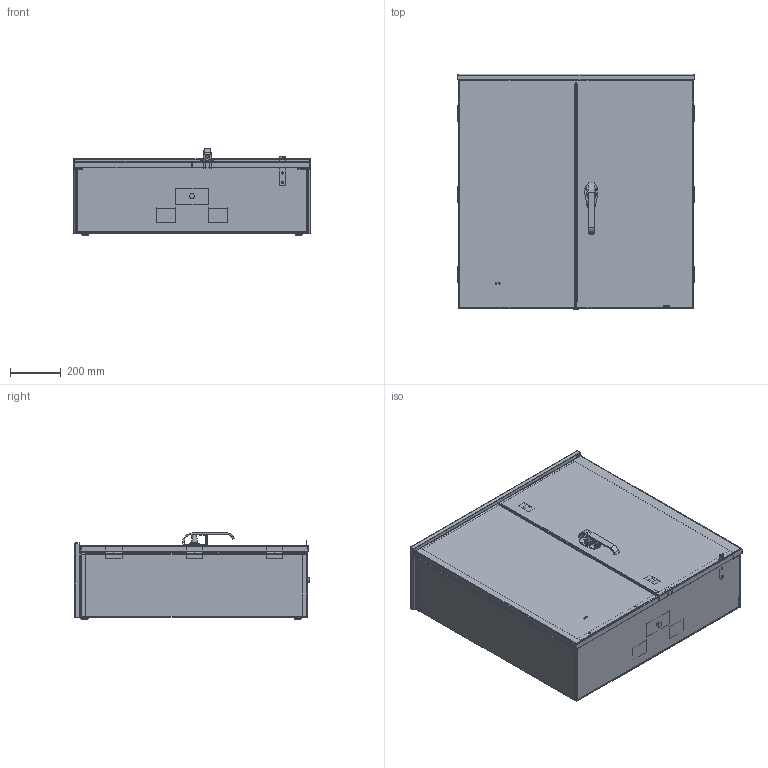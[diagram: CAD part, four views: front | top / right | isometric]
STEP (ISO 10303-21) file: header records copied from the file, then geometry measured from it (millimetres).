
FILE_DESCRIPTION (( 'STEP AP203' ), '1' );
FILE_NAME ('a800hct1r.STEP', '2009-03-25T19:14:49', ( '' ), ( '' ), 'SwSTEP 2.0', 'SolidWorks 2007', '' );
FILE_SCHEMA (( 'CONFIG_CONTROL_DESIGN' ));
Products named in the file (47): L36_handle_dm-1; L36_sq_shaft_dm-1; 87789908-1; 87789912-1; pem_stud_1_4-20x.750-1; BODY(Default)-1; BOTTOM-1; ROD LATCH-1; 30101003-1; washer_flat_1_2-1; washer_flat_3_8-1; bolt_hxhd_1_2-13x3.00-1; busbar_25_3_11-1; isolator_bar-1; 87780177-1; 87780179-1; a800hct1r; assy_neutral_ct_kit-1; neutral_bar_2x3_8-1; ilsco_au6002ns-1; 87789914-1; bolt_hxhd_1_2-13x2.00-1; bracket_support-1; ground_plate-1; TOP(Default)-1; CHANNEL_32-1; LATCH ASSEMBLY-2; 87548145_L36_handle_assy_dm-1; L36_base_plate_dm-1; L36_spindle_dm-1; L36_hasp_locking_dm-1; GASKET-1; LATCH ASSEMBLY-3; 27115001-1; nut_hex_1_2-13-1; washer_lk_spring_3_8-1; washer_spring_1_2-1; bolt_hxhd_3_8-16x1.75-1; terminal_blackburn-1; conductor_strap-1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
Assembly tree (181 placements, depth 4):
  a800hct1r
    nut_hex_1_2-13-1  x14
    washer_spring_1_2-1  x13
    bolt_hxhd_1_2-13x3.00-1  x12
    washer_flat_1_2-1  x24
    washer_flat_3_8-1  x8
    bolt_hxhd_3_8-16x1.75-1  x8
    LATCH ASSEMBLY-2
      27115001-1
      30101003-1  x2
      ROD LATCH-1
    terminal_blackburn-1  x6
    87780177-1  x3
    nut_hex_3_8-16-1  x8
    87780179-1  x3
    washer_lk_spring_3_8-1  x8
    COVER02(Default)-1
    87548145_L36_handle_assy_dm-1
      L36_hasp_locking_dm-1
      L36_base_plate_dm-1
      L36_handle_dm-1
      L36_spindle_dm-1
      L36_sq_shaft_dm-1
      GASKET-1
    isolator_bar-1  x2
    87789908-1
      TOP(Default)-1
      87789914-1
        bracket_support-1  x2
        pem_stud_1_4-20x.750-1  x4
        ground_plate-1
        bolt_hxhd_1_2-13x2.00-1
      BOTTOM-1
      87789912-1
        bracket_support-1  x2
      BODY(Default)-1
      CHANNEL_32-1
    assy_neutral_ct_kit-1
      washer_flat_1_2-1  x8
      ilsco_au6002ns-1  x2
      bolt_hxhd_1_2-13x2.00-1  x2
      nut_hex_1_2-13-1  x4
      washer_spring_1_2-1  x4
      bolt_hxhd_1_2-13x3.00-1  x2
      neutral_bar_2x3_8-1
    COVER(RIGHT DOOR)-1
    busbar_25_3_11-1  x3
    conductor_strap-1  x6
    LATCH ASSEMBLY-3
      30101003-1  x2
      27115001-1
      ROD LATCH-1
    lug_with_setscrew-1
    PIN-1
    staple-1
  26123010
Bounding box: 931.45 x 925.47 x 338.61 mm (x, y, z)
Volume: 12249065.6 mm3; surface area: 7477340.6 mm2
Topology: 179 solids, 182 shells, 3044 faces, 7531 edges, 4908 vertices
Faces by surface type: plane 1382, cylinder 1012, cone 587, bspline 47, torus 16
Entity records: 58242 total; most frequent: CARTESIAN_POINT 21361, DIRECTION 5939, ORIENTED_EDGE 5730, EDGE_CURVE 2867, AXIS2_PLACEMENT_3D 2165, VERTEX_POINT 1836, LINE 1609, VECTOR 1609
